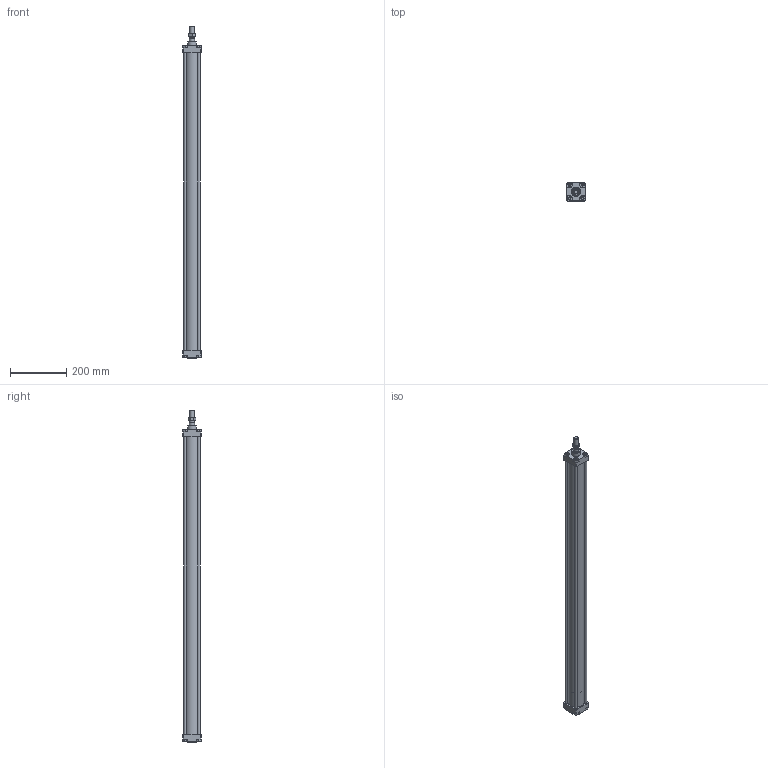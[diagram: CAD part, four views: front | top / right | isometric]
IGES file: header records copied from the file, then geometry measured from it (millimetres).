
Global section: file name: 1303_050_1000_01A; native system: Autodesk Inventor 2014; preprocessor: unknown; author: A. Manieri; date: 20161123.150346; units: millimetre
Bounding box: 65 x 65 x 1182 mm (x, y, z)
Volume: 1140059.9 mm3; surface area: 574210.6 mm2
Topology: 9 solids, 9 shells, 163 faces, 401 edges, 268 vertices
Faces by surface type: bspline 163
